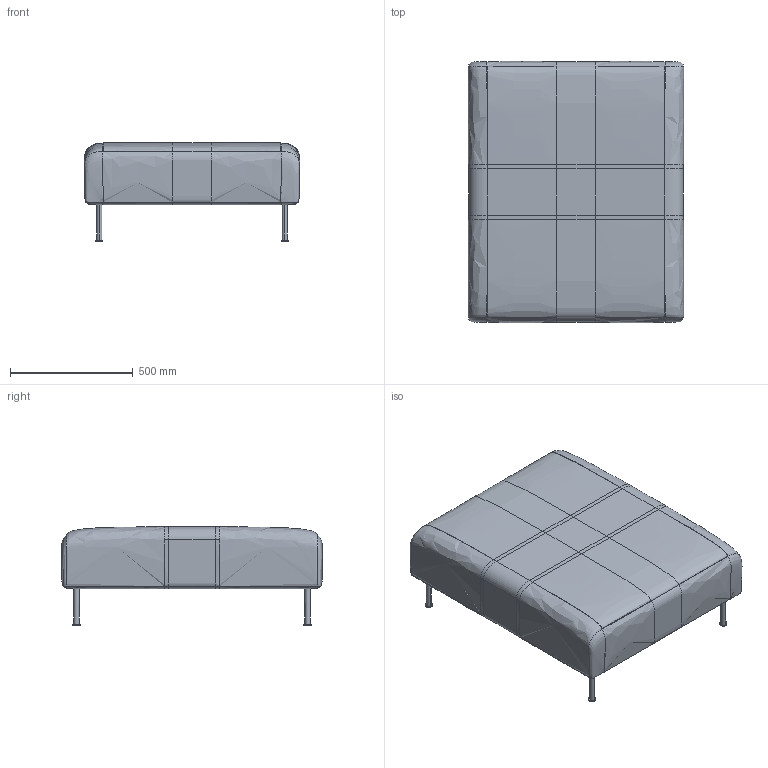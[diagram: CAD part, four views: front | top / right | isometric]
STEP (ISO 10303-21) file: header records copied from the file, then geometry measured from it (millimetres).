
FILE_DESCRIPTION(/* description */ (''),/* implementation_level */ '2;1');
FILE_NAME(/* name */ 'Collar ottoman',/* time_stamp */ '2020-02-17T15:55:39+01:00',/* author */ (''),/* organization */ (''),/* preprocessor_version */ 'ST-DEVELOPER v15',/* originating_system */ '',/* authorisation */ '');
FILE_SCHEMA (('AUTOMOTIVE_DESIGN'));
Length unit declared in the file: millimetre
Products named in the file (1): Document
Bounding box: 878.75 x 1065.3 x 400.19 mm (x, y, z)
Volume: 236965.1 mm3; surface area: 1953685.6 mm2
Topology: 12 solids, 13 shells, 109 faces, 246 edges, 148 vertices
Faces by surface type: bspline 90, plane 19
Entity records: 19434 total; most frequent: CARTESIAN_POINT 17851, ORIENTED_EDGE 428, EDGE_CURVE 238, B_SPLINE_CURVE_WITH_KNOTS 150, VERTEX_POINT 140, ADVANCED_FACE 109, FACE_OUTER_BOUND 109, EDGE_LOOP 109
